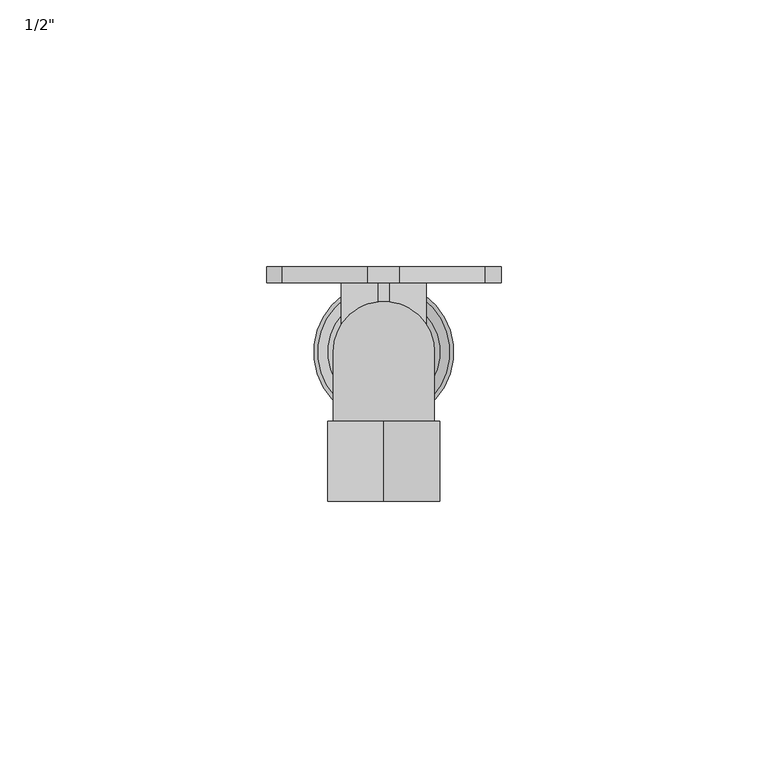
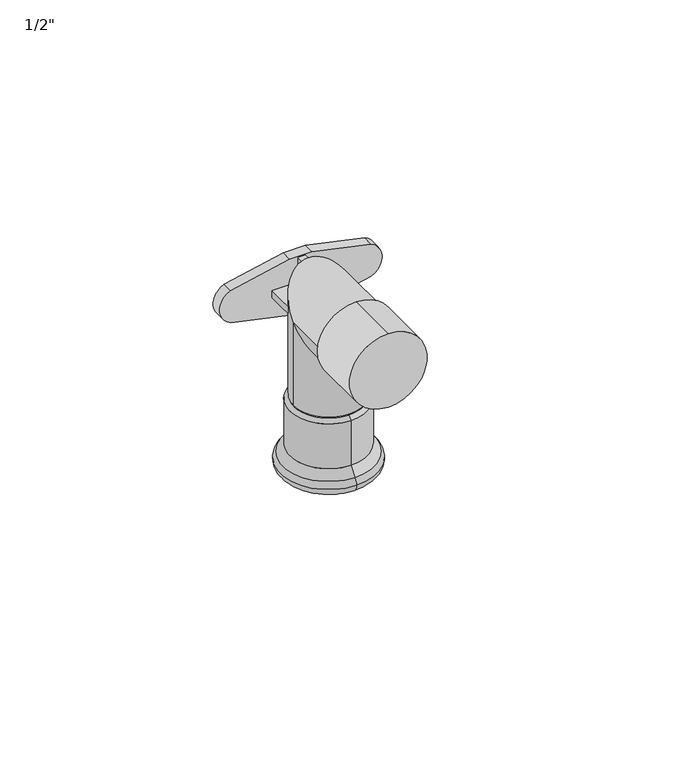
"""IFC4 building model written with IfcOpenShell, lengths in millimetres: pipe fitting geometry."""

from ifc_helpers import new_model, si_unit, point, frame, frame_2d, origin, origin_with_axes, origin_2d, place, context, project, spatial, polyline, circle_curve, ellipse_curve, trimmed, segment, composite_curve, outline, extrude, source, transform, mapped, element, save
from ifc_brep_helpers import plane_surface, cylinder_surface, revolved_surface, advanced_brep


def pipe_fitting_977f48e0(model_context):
    return source(origin(), model_context, "Body", "SolidModel", [
        extrude(outline(composite_curve([segment(trimmed(circle_curve(frame_2d((0.0, 17.0)), 5.0), [point((-4.5609756, 19.0487805))], [point((4.5609756, 19.0487805))], False, "CARTESIAN"), True, "CONTINUOUS"), segment(polyline([(4.5609756, 19.0487805), (8.0, 3.0), (8.0, -3.0), (4.5609756, -19.0487805)]), True, "CONTINUOUS"), segment(trimmed(circle_curve(frame_2d((0.0, -17.0)), 5.0), [point((4.5609756, -19.0487805))], [point((-4.5609756, -19.0487805))], False, "CARTESIAN"), True, "CONTINUOUS"), segment(polyline([(-4.5609756, -19.0487805), (-8.0, -3.0), (-8.0, 3.0), (-4.5609756, 19.0487805)]), True, "CONTINUOUS")], self_intersect=False)), frame((0.0, 13.0, 0.0), z_axis=(0.0, 1.0, 0.0), x_axis=(0.0, 0.0, 1.0)), (0.0, 0.0, 1.0), 3.0),
        extrude(outline(polyline([(-1.0, 8.0), (1.0, 8.0), (1.0, 1.0), (8.0, 1.0), (8.0, -1.0), (1.0, -1.0), (1.0, -8.0), (-1.0, -8.0), (-1.0, -1.0), (-8.0, -1.0), (-8.0, 1.0), (-1.0, 1.0), (-1.0, 8.0)])), frame((0.0, 0.0, 0.0), z_axis=(0.0, 1.0, 0.0), x_axis=(0.0, 0.0, 1.0)), (0.0, 0.0, 1.0), 13.0),
        advanced_brep(
        [(0.0, -13.125, -41.8921278), (0.0, 13.125, -41.8921278), (0.0, 11.3484544, -44.432052), (0.0, -11.3484544, -44.432052), (0.0, -12.4370225, -40.0922627), (0.0, 12.4370225, -40.0922627), (0.0, -10.5, -37.7838092), (0.0, 10.5, -37.7838092), (0.0, -10.5, -25.0), (0.0, 10.5, -25.0), (0.0, -9.5, -24.0), (0.0, 9.5, -24.0), (0.0, 0.0, -24.0), (0.0, -9.7880302, -45.0), (0.0, 9.7880302, -45.0), (0.0, 0.0, -45.0)],
        [
            (0, 1, circle_curve(frame((0.0, 0.0, -41.8921278), z_axis=(0.0, 0.0, -1.0), x_axis=(0.0, 1.0, 0.0)), 13.125)),
            (1, 2, circle_curve(frame((0.0, 10.4249993, -41.89488), z_axis=(-1.0, 0.0, 0.0), x_axis=(0.0, 1.0, 0.0)), 2.7000021)),
            (2, 3, circle_curve(frame((0.0, 0.0, -44.432052), z_axis=(0.0, 0.0, 1.0), x_axis=(0.0, 1.0, 0.0)), 11.3484544)),
            (3, 0, circle_curve(frame((0.0, -10.4249993, -41.89488), z_axis=(-1.0, 0.0, 0.0), x_axis=(0.0, -1.0, 0.0)), 2.7000021)),
            (1, 0, circle_curve(frame((0.0, 0.0, -41.8921278), z_axis=(0.0, 0.0, -1.0), x_axis=(0.0, 1.0, 0.0)), 13.125)),
            (3, 2, circle_curve(frame((0.0, 0.0, -44.432052), z_axis=(0.0, 0.0, 1.0), x_axis=(0.0, 1.0, 0.0)), 11.3484544)),
            (4, 5, circle_curve(frame((0.0, 0.0, -40.0922627), z_axis=(0.0, 0.0, -1.0), x_axis=(0.0, 1.0, 0.0)), 12.4370225)),
            (5, 1, circle_curve(frame((0.0, 10.4230333, -41.8935049), z_axis=(-1.0, 0.0, 0.0), x_axis=(0.0, 1.0, 0.0)), 2.701967)),
            (0, 4, circle_curve(frame((0.0, -10.4230333, -41.8935049), z_axis=(-1.0, 0.0, 0.0), x_axis=(0.0, -1.0, 0.0)), 2.701967)),
            (5, 4, circle_curve(frame((0.0, 0.0, -40.0922627), z_axis=(0.0, 0.0, -1.0), x_axis=(0.0, 1.0, 0.0)), 12.4370225)),
            (6, 7, circle_curve(frame((0.0, 0.0, -37.7838092), z_axis=(0.0, 0.0, -1.0), x_axis=(0.0, 1.0, 0.0)), 10.5)),
            (7, 5),
            (4, 6),
            (7, 6, circle_curve(frame((0.0, 0.0, -37.7838092), z_axis=(0.0, 0.0, -1.0), x_axis=(0.0, 1.0, 0.0)), 10.5)),
            (8, 9, circle_curve(frame((0.0, 0.0, -25.0), z_axis=(0.0, 0.0, -1.0), x_axis=(0.0, 1.0, 0.0)), 10.5)),
            (9, 7),
            (6, 8),
            (9, 8, circle_curve(frame((0.0, 0.0, -25.0), z_axis=(0.0, 0.0, -1.0), x_axis=(0.0, 1.0, 0.0)), 10.5)),
            (10, 11, circle_curve(frame((0.0, 0.0, -24.0), z_axis=(0.0, 0.0, -1.0), x_axis=(0.0, 1.0, 0.0)), 9.5)),
            (11, 9),
            (8, 10),
            (11, 10, circle_curve(frame((0.0, 0.0, -24.0), z_axis=(0.0, 0.0, -1.0), x_axis=(0.0, 1.0, 0.0)), 9.5)),
            (12, 11),
            (10, 12),
            (13, 14, circle_curve(frame((0.0, 0.0, -45.0), z_axis=(0.0, 0.0, -1.0), x_axis=(0.0, 1.0, 0.0)), 9.7880302)),
            (14, 15),
            (15, 13),
            (14, 13, circle_curve(frame((0.0, 0.0, -45.0), z_axis=(0.0, 0.0, -1.0), x_axis=(0.0, 1.0, 0.0)), 9.7880302)),
            (2, 14),
            (13, 3),
        ],
        [
            revolved_surface(trimmed(ellipse_curve(frame((0.0, 10.4249993, -41.89488), z_axis=(1.0, 0.0, 0.0), x_axis=(0.0, 1.0, 0.0)), 2.7000021, 2.7000021), [point((0.0, 11.3484544, -44.432052))], [point((0.0, 13.125, -41.8921278))], True, "CARTESIAN"), (0.0, 0.0, 2741.4742198), (0.0, 0.0, 1.0)),
            revolved_surface(trimmed(ellipse_curve(frame((0.0, 10.4230333, -41.8935049), z_axis=(1.0, 0.0, 0.0), x_axis=(0.0, 1.0, 0.0)), 2.701967, 2.701967), [point((0.0, 13.125, -41.8921278))], [point((0.0, 12.4370225, -40.0922627))], True, "CARTESIAN"), (0.0, 0.0, 2741.4742198), (0.0, 0.0, 1.0)),
            revolved_surface(polyline([(0.0, 12.4370225, -40.0922627), (0.0, 10.5, -37.7838092)]), (0.0, 0.0, 2741.4742198), (0.0, 0.0, 1.0)),
            cylinder_surface(frame((0.0, 0.0, 2741.4742198), z_axis=(0.0, 0.0, 1.0), x_axis=(0.0, 1.0, 0.0)), 10.5),
            revolved_surface(polyline([(0.0, 10.5, -25.0), (0.0, 9.5, -24.0)]), (0.0, 0.0, 2741.4742198), (0.0, 0.0, 1.0)),
            plane_surface(frame((0.0, 0.0, -24.0), z_axis=(0.0, 0.0, 1.0), x_axis=(0.0, 1.0, 0.0))),
            plane_surface(frame((0.0, 0.0, -45.0), z_axis=(0.0, 0.0, -1.0), x_axis=(0.0, 1.0, 0.0))),
            revolved_surface(polyline([(0.0, 9.7880302, -45.0), (0.0, 11.3484544, -44.432052)]), (0.0, 0.0, 2741.4742198), (0.0, 0.0, 1.0)),
        ],
        [
            (0, [[1, 2, 3, 4]]),
            (0, [[5, -4, 6, -2]]),
            (1, [[7, 8, -1, 9]]),
            (1, [[10, -9, -5, -8]]),
            (2, [[11, 12, -7, 13]]),
            (2, [[14, -13, -10, -12]]),
            (3, [[15, 16, -11, 17]]),
            (3, [[18, -17, -14, -16]]),
            (4, [[19, 20, -15, 21]]),
            (4, [[22, -21, -18, -20]]),
            (5, [[23, -19, 24]]),
            (5, [[-24, -22, -23]]),
            (6, [[25, 26, 27]]),
            (6, [[28, -27, -26]]),
            (7, [[-3, 29, -25, 30]]),
            (7, [[-6, -30, -28, -29]]),
        ],
    ),
        advanced_brep(
        [(-9.5, -13.0, 0.0), (9.5, -13.0, 0.0), (-9.5, 0.0, 0.0), (9.5, 0.0, 0.0), (-9.5, 0.0, -24.0), (9.5, 0.0, -24.0)],
        [
            (0, 1, circle_curve(frame((0.0, -13.0, 0.0), z_axis=(0.0, -1.0, 0.0), x_axis=(1.0, 0.0, 0.0)), 9.5)),
            (1, 0, circle_curve(frame((0.0, -13.0, 0.0), z_axis=(0.0, -1.0, 0.0), x_axis=(1.0, 0.0, 0.0)), 9.5)),
            (0, 2),
            (2, 3, ellipse_curve(frame((0.0, 0.0, 0.0), z_axis=(0.0, -0.7071067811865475, 0.7071067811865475), x_axis=(0.0, -0.7071067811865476, -0.7071067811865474)), 13.4350288, 9.5)),
            (3, 1),
            (3, 2, ellipse_curve(frame((0.0, 0.0, 0.0), z_axis=(0.0, -0.7071067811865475, 0.7071067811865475), x_axis=(0.0, -0.7071067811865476, -0.7071067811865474)), 13.4350288, 9.5)),
            (4, 5, circle_curve(frame((0.0, 0.0, -24.0), z_axis=(0.0, 0.0, -1.0), x_axis=(1.0, 0.0, 0.0)), 9.5)),
            (5, 4, circle_curve(frame((0.0, 0.0, -24.0), z_axis=(0.0, 0.0, -1.0), x_axis=(1.0, 0.0, 0.0)), 9.5)),
            (2, 4),
            (5, 3),
        ],
        [
            plane_surface(frame((0.0, -13.0, 0.0), z_axis=(0.0, -1.0, 0.0), x_axis=(1.0, 0.0, 0.0))),
            cylinder_surface(frame((0.0, -13.0, 0.0), z_axis=(0.0, -1.0, 0.0), x_axis=(1.0, 0.0, 0.0)), 9.5),
            plane_surface(frame((0.0, 0.0, -24.0), z_axis=(0.0, 0.0, -1.0), x_axis=(1.0, 0.0, 0.0))),
            cylinder_surface(origin_with_axes(), 9.5),
        ],
        [
            (0, [[1, 2]]),
            (1, [[-1, 3, 4, 5]]),
            (1, [[-2, -5, 6, -3]]),
            (2, [[7, 8]]),
            (3, [[-4, 9, -8, 10]]),
            (3, [[-6, -10, -7, -9]]),
        ],
    ),
        extrude(outline(composite_curve([segment(trimmed(circle_curve(origin_2d(), 10.5), [point((-10.5, 0.0))], [point((10.5, 0.0))], False, "CARTESIAN"), True, "CONTINUOUS"), segment(trimmed(circle_curve(origin_2d(), 10.5), [point((10.5, 0.0))], [point((-10.5, 0.0))], False, "CARTESIAN"), True, "CONTINUOUS")], self_intersect=False)), frame((0.0, -28.0, 0.0), z_axis=(0.0, 1.0, 0.0), x_axis=(0.0, 0.0, 1.0)), (0.0, 0.0, 1.0), 15.0),
    ])


if __name__ == "__main__":
    model = new_model("IFC4")
    model_context = context("Model", 3, world=origin())
    ifc_project = project(units=[si_unit("LENGTHUNIT", "METRE", prefix="MILLI")], contexts=[model_context])
    site = spatial("IfcSite", under=ifc_project)
    building = spatial("IfcBuilding", under=site)
    placement = place(None, origin())
    pipe_fitting_shape = pipe_fitting_977f48e0(model_context)
    element("IfcPipeFitting", 1, ObjectType="KAN-therm Inox podejście pod baterię z uszami krótkie : 1/2\"", at=placement, inside=building, context=model_context, shape_type="MappedRepresentation", body=[
        mapped(pipe_fitting_shape, transform((0.0, 0.0, 0.0), x_axis=(1.0, 0.0, 0.0), y_axis=(0.0, 1.0, 0.0), z_axis=(0.0, 0.0, 1.0))),
    ])
    save(model, "model.ifc")
